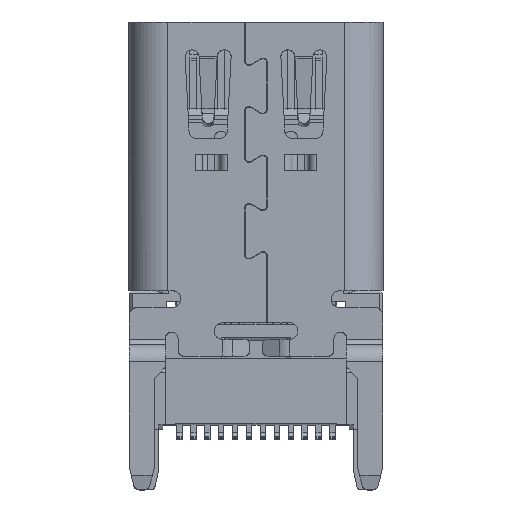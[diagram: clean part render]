
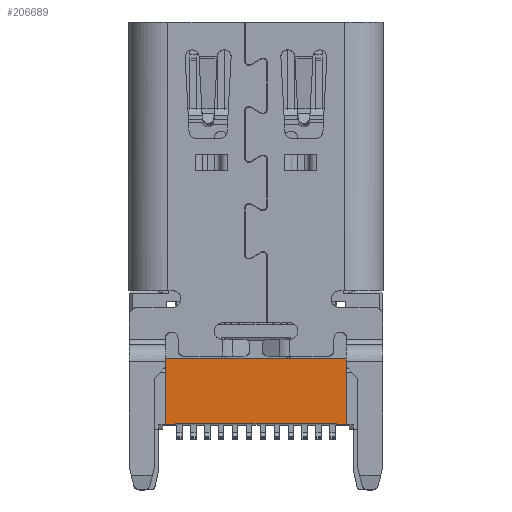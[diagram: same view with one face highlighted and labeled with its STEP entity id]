
A CAD part, top view. The second image highlights one B-rep face of the part: STEP entity #206689.
In plain terms, the highlighted planar face has unit normal (0, 0, -1).
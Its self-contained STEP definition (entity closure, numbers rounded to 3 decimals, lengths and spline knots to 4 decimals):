
#470 = CARTESIAN_POINT ( 'NONE',  ( 0.9622, -9.67, 2.27 ) ) ;
#2177 = CARTESIAN_POINT ( 'NONE',  ( -2.8867, -9.72, 2.27 ) ) ;
#4726 = CARTESIAN_POINT ( 'NONE',  ( 2.8867, -9.72, 2.27 ) ) ;
#4895 = EDGE_CURVE ( 'NONE', #261032, #161657, #247039, .T. ) ;
#18136 = B_SPLINE_CURVE_WITH_KNOTS ( 'NONE', 3,
 ( #173896, #255590, #94899, #177917 ),
 .UNSPECIFIED., .F., .F.,
 ( 4, 4 ),
 ( 0., 1. ),
 .UNSPECIFIED. ) ;
#20980 = ORIENTED_EDGE ( 'NONE', *, *, #139881, .T. ) ;
#24026 = CARTESIAN_POINT ( 'NONE',  ( 1.0833, -7.35, 2.27 ) ) ;
#25380 = PLANE ( 'NONE',  #123944 ) ;
#27886 = VERTEX_POINT ( 'NONE', #30124 ) ;
#29770 = EDGE_CURVE ( 'NONE', #160609, #161657, #156791, .T. ) ;
#30124 = CARTESIAN_POINT ( 'NONE',  ( 3.25, -7.35, 2.27 ) ) ;
#34770 = CARTESIAN_POINT ( 'NONE',  ( -2.8867, -9.72, 2.27 ) ) ;
#39079 = CARTESIAN_POINT ( 'NONE',  ( 3.25, -9.72, 2.27 ) ) ;
#41236 = CARTESIAN_POINT ( 'NONE',  ( -3.25, -8.93, 2.27 ) ) ;
#46900 = CARTESIAN_POINT ( 'NONE',  ( 2.8867, -9.7033, 2.27 ) ) ;
#50919 = CARTESIAN_POINT ( 'NONE',  ( 2.8867, -9.67, 2.27 ) ) ;
#51220 = CARTESIAN_POINT ( 'NONE',  ( 2.8867, -9.67, 2.27 ) ) ;
#56803 = CARTESIAN_POINT ( 'NONE',  ( 3.25, -7.35, 2.27 ) ) ;
#59846 = ORIENTED_EDGE ( 'NONE', *, *, #201001, .T. ) ;
#60364 = CARTESIAN_POINT ( 'NONE',  ( -2.8867, -9.67, 2.27 ) ) ;
#62081 = B_SPLINE_CURVE_WITH_KNOTS ( 'NONE', 3,
 ( #39079, #164215, #207757, #143828 ),
 .UNSPECIFIED., .F., .F.,
 ( 4, 4 ),
 ( 0., 1. ),
 .UNSPECIFIED. ) ;
#73084 = VERTEX_POINT ( 'NONE', #51220 ) ;
#74637 = EDGE_CURVE ( 'NONE', #27886, #160609, #221712, .T. ) ;
#87713 = CARTESIAN_POINT ( 'NONE',  ( 2.8867, -9.6867, 2.27 ) ) ;
#94606 = ORIENTED_EDGE ( 'NONE', *, *, #102546, .T. ) ;
#94899 = CARTESIAN_POINT ( 'NONE',  ( -2.8867, -9.7033, 2.27 ) ) ;
#101193 = CARTESIAN_POINT ( 'NONE',  ( -3.25, -9.72, 2.27 ) ) ;
#101290 = B_SPLINE_CURVE_WITH_KNOTS ( 'NONE', 3,
 ( #4726, #46900, #87713, #50919 ),
 .UNSPECIFIED., .F., .F.,
 ( 4, 4 ),
 ( 0., 1. ),
 .UNSPECIFIED. ) ;
#101639 = CARTESIAN_POINT ( 'NONE',  ( 3.25, -7.35, 2.27 ) ) ;
#102546 = EDGE_CURVE ( 'NONE', #73084, #155088, #107926, .T. ) ;
#106489 = CARTESIAN_POINT ( 'NONE',  ( -3.25, -8.14, 2.27 ) ) ;
#107024 = CARTESIAN_POINT ( 'NONE',  ( 0., -8.535, 2.27 ) ) ;
#107926 = B_SPLINE_CURVE_WITH_KNOTS ( 'NONE', 3,
 ( #167750, #470, #226378, #60364 ),
 .UNSPECIFIED., .F., .F.,
 ( 4, 4 ),
 ( 0., 1. ),
 .UNSPECIFIED. ) ;
#108370 = DIRECTION ( 'NONE',  ( 0., -1., 0. ) ) ;
#108440 = ORIENTED_EDGE ( 'NONE', *, *, #230025, .T. ) ;
#117766 = CARTESIAN_POINT ( 'NONE',  ( -3.1289, -9.72, 2.27 ) ) ;
#119114 = CARTESIAN_POINT ( 'NONE',  ( -3.0078, -9.72, 2.27 ) ) ;
#120463 = CARTESIAN_POINT ( 'NONE',  ( -3.25, -9.72, 2.27 ) ) ;
#122073 = CARTESIAN_POINT ( 'NONE',  ( -1.0833, -7.35, 2.27 ) ) ;
#123944 = AXIS2_PLACEMENT_3D ( 'NONE', #107024, #170933, #108370 ) ;
#139881 = EDGE_CURVE ( 'NONE', #27886, #264078, #255504, .T. ) ;
#140556 = ORIENTED_EDGE ( 'NONE', *, *, #234962, .T. ) ;
#141248 = ORIENTED_EDGE ( 'NONE', *, *, #4895, .T. ) ;
#143828 = CARTESIAN_POINT ( 'NONE',  ( 2.8867, -9.72, 2.27 ) ) ;
#155088 = VERTEX_POINT ( 'NONE', #240567 ) ;
#156791 = B_SPLINE_CURVE_WITH_KNOTS ( 'NONE', 3,
 ( #252091, #106489, #41236, #166376 ),
 .UNSPECIFIED., .F., .F.,
 ( 4, 4 ),
 ( 0., 1. ),
 .UNSPECIFIED. ) ;
#157556 = CARTESIAN_POINT ( 'NONE',  ( 3.25, -9.72, 2.27 ) ) ;
#160609 = VERTEX_POINT ( 'NONE', #208066 ) ;
#161657 = VERTEX_POINT ( 'NONE', #101193 ) ;
#164204 = CARTESIAN_POINT ( 'NONE',  ( -3.25, -7.35, 2.27 ) ) ;
#164215 = CARTESIAN_POINT ( 'NONE',  ( 3.1289, -9.72, 2.27 ) ) ;
#166376 = CARTESIAN_POINT ( 'NONE',  ( -3.25, -9.72, 2.27 ) ) ;
#167750 = CARTESIAN_POINT ( 'NONE',  ( 2.8867, -9.67, 2.27 ) ) ;
#170933 = DIRECTION ( 'NONE',  ( 0., 0., -1. ) ) ;
#173896 = CARTESIAN_POINT ( 'NONE',  ( -2.8867, -9.67, 2.27 ) ) ;
#177917 = CARTESIAN_POINT ( 'NONE',  ( -2.8867, -9.72, 2.27 ) ) ;
#197376 = CARTESIAN_POINT ( 'NONE',  ( 2.8867, -9.72, 2.27 ) ) ;
#201001 = EDGE_CURVE ( 'NONE', #251751, #73084, #101290, .T. ) ;
#206689 = ADVANCED_FACE ( 'NONE', ( #210457 ), #25380, .T. ) ;
#207757 = CARTESIAN_POINT ( 'NONE',  ( 3.0078, -9.72, 2.27 ) ) ;
#208066 = CARTESIAN_POINT ( 'NONE',  ( -3.25, -7.35, 2.27 ) ) ;
#210457 = FACE_OUTER_BOUND ( 'NONE', #263209, .T. ) ;
#213640 = ORIENTED_EDGE ( 'NONE', *, *, #74637, .F. ) ;
#221712 = B_SPLINE_CURVE_WITH_KNOTS ( 'NONE', 3,
 ( #101639, #24026, #122073, #164204 ),
 .UNSPECIFIED., .F., .F.,
 ( 4, 4 ),
 ( 0., 1. ),
 .UNSPECIFIED. ) ;
#222858 = CARTESIAN_POINT ( 'NONE',  ( 3.25, -8.93, 2.27 ) ) ;
#226378 = CARTESIAN_POINT ( 'NONE',  ( -0.9622, -9.67, 2.27 ) ) ;
#228859 = ORIENTED_EDGE ( 'NONE', *, *, #29770, .F. ) ;
#230025 = EDGE_CURVE ( 'NONE', #264078, #251751, #62081, .T. ) ;
#230966 = CARTESIAN_POINT ( 'NONE',  ( 3.25, -9.72, 2.27 ) ) ;
#234962 = EDGE_CURVE ( 'NONE', #155088, #261032, #18136, .T. ) ;
#240567 = CARTESIAN_POINT ( 'NONE',  ( -2.8867, -9.67, 2.27 ) ) ;
#247039 = B_SPLINE_CURVE_WITH_KNOTS ( 'NONE', 3,
 ( #34770, #119114, #117766, #120463 ),
 .UNSPECIFIED., .F., .F.,
 ( 4, 4 ),
 ( 0., 1. ),
 .UNSPECIFIED. ) ;
#251751 = VERTEX_POINT ( 'NONE', #197376 ) ;
#252091 = CARTESIAN_POINT ( 'NONE',  ( -3.25, -7.35, 2.27 ) ) ;
#255504 = B_SPLINE_CURVE_WITH_KNOTS ( 'NONE', 3,
 ( #56803, #266374, #222858, #157556 ),
 .UNSPECIFIED., .F., .F.,
 ( 4, 4 ),
 ( 0., 1. ),
 .UNSPECIFIED. ) ;
#255590 = CARTESIAN_POINT ( 'NONE',  ( -2.8867, -9.6867, 2.27 ) ) ;
#261032 = VERTEX_POINT ( 'NONE', #2177 ) ;
#263209 = EDGE_LOOP ( 'NONE', ( #108440, #59846, #94606, #140556, #141248, #228859, #213640, #20980 ) ) ;
#264078 = VERTEX_POINT ( 'NONE', #230966 ) ;
#266374 = CARTESIAN_POINT ( 'NONE',  ( 3.25, -8.14, 2.27 ) ) ;
